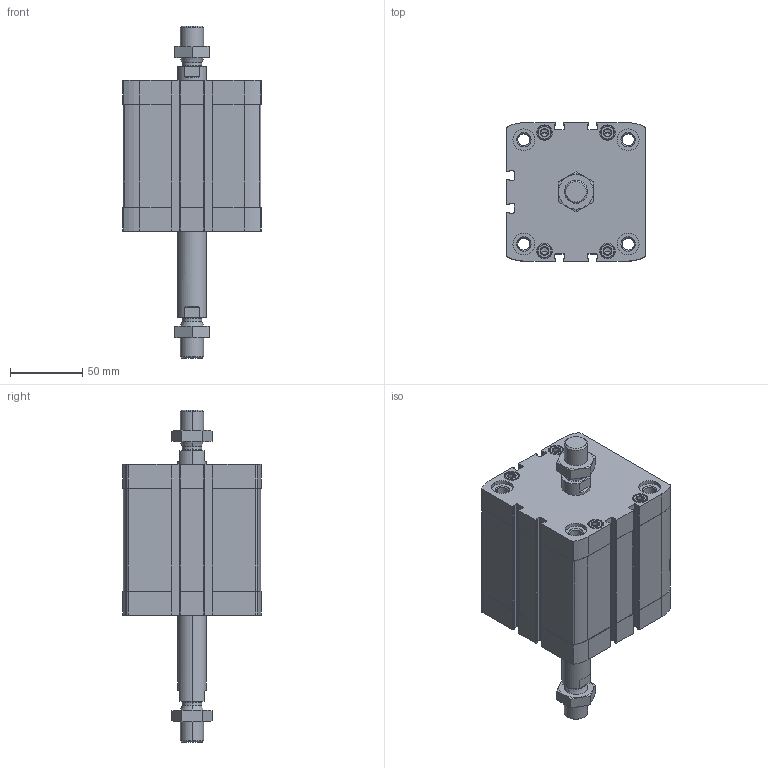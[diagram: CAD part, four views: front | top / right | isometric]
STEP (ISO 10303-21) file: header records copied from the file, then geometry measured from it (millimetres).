
FILE_DESCRIPTION (( 'STEP AP203' ), '1' );
FILE_NAME ('CCN80-50-P.STEP', '2020-06-22T19:07:02', ( '' ), ( '' ), 'SwSTEP 2.0', 'SolidWorks 2019', '' );
FILE_SCHEMA (( 'CONFIG_CONTROL_DESIGN' ));
Length unit declared in the file: millimetre
Products named in the file (1): CCN80-50-P
Bounding box: 95.5 x 95.5 x 229.2 mm (x, y, z)
Volume: 688778 mm3; surface area: 138486.9 mm2
Topology: 4 solids, 4 shells, 544 faces, 1352 edges, 848 vertices
Faces by surface type: plane 248, cylinder 196, cone 92, torus 8
Entity records: 17807 total; most frequent: CARTESIAN_POINT 4577, DIRECTION 2866, ORIENTED_EDGE 2672, EDGE_CURVE 1336, AXIS2_PLACEMENT_3D 1077, VERTEX_POINT 848, VECTOR 712, LINE 712
